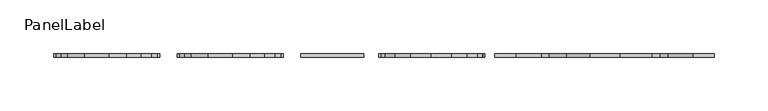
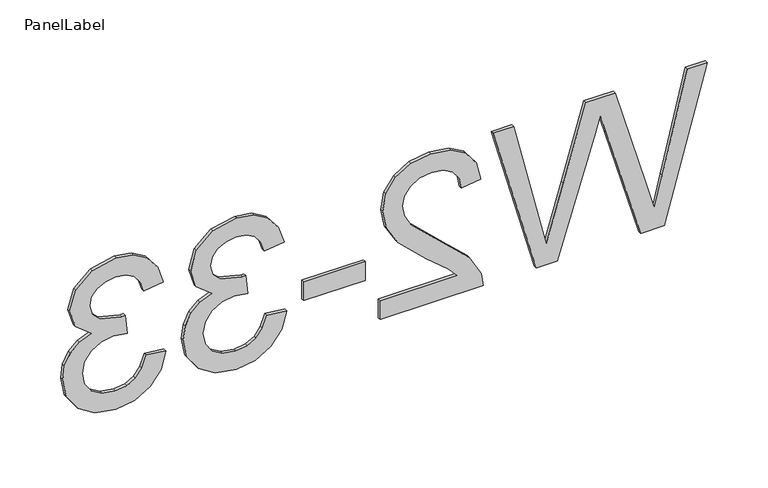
"""IFC4 building model written with IfcOpenShell, lengths in millimetres: fastener geometry, PanelLabel : Miranda."""

from ifc_helpers import new_model, si_unit, frame, origin, place, context, project, spatial, polyline, outline, extrude, source, transform, mapped, element, save


def panellabel_b0f0797e(model_context):
    return source(origin(), model_context, "Body", "SweptSolid", [
        extrude(outline(polyline([(1310.9113766, 268.5683654), (1460.9667612, 309.4892308), (1460.9667612, 290.1461538), (1362.3463766, 266.4069231), (1331.9030112, 259.08), (1358.8294535, 251.2401923), (1460.9667612, 221.4928846), (1460.9667612, 193.6139423), (1386.9282035, 171.9995192), (1331.9030112, 155.9169231), (1361.4671458, 148.8098077), (1460.9667612, 124.8507692), (1460.9667612, 105.5076923), (1310.9113766, 146.4651923), (1310.9113766, 166.5043269), (1426.6767612, 202.4795192), (1442.8326266, 207.4984615), (1423.3796458, 213.1401923), (1310.9113766, 245.9281731), (1310.9113766, 268.5683654)])), frame((0.0, 100.80625, 0.0), z_axis=(0.0, 1.0, 0.0), x_axis=(0.0, 0.0, 1.0)), (0.0, 0.0, 1.0), 3.175),
        extrude(outline(polyline([(1329.6682997, -2.3446154), (1310.9113766, -2.3446154), (1310.9113766, 96.1292308), (1323.8433958, 94.1143269), (1343.7543093, 82.7209615), (1365.4969535, 59.2381731), (1396.7462804, 26.8531731), (1407.5168573, 20.7809856), (1417.9943573, 18.7569231), (1427.3865569, 20.6665024), (1435.1943093, 26.3952404), (1440.4559559, 35.2012861), (1442.2098381, 46.3427885), (1440.4971698, 58.0429688), (1435.359165, 67.1329327), (1427.1988045, 72.9990505), (1416.4190689, 75.0276923), (1418.7636843, 93.7846154), (1436.9069775, 89.2373438), (1450.1595497, 79.4055288), (1458.2649583, 64.8020553), (1460.9667612, 45.9398077), (1457.9627227, 26.9401803), (1448.9506073, 12.3641827), (1435.4873862, 3.0910457), (1419.1300304, 0.0), (1401.3439247, 3.33375), (1382.9533477, 14.4157212), (1357.254165, 41.2872115), (1339.211617, 62.865), (1329.6682997, 71.3275962), (1329.6682997, -2.3446154)])), frame((0.0, 100.80625, 0.0), z_axis=(0.0, 1.0, 0.0), x_axis=(0.0, 0.0, 1.0)), (0.0, 0.0, 1.0), 3.175),
        extrude(outline(polyline([(-75.0276923, 103.98125), (-16.4123077, 103.98125), (-16.4123077, 100.80625), (-75.0276923, 100.80625), (-75.0276923, 103.98125)])), frame((0.0, 0.0, 1355.4590689), z_axis=(0.0, 0.0, 1.0), x_axis=(1.0, 0.0, 0.0)), (0.0, 0.0, 1.0), 18.7569231),
        extrude(outline(polyline([(1350.7698381, -91.44), (1353.1144535, -110.1969231), (1341.327266, -114.3961659), (1333.3683958, -120.5462019), (1328.8348622, -128.9492668), (1327.3236843, -139.9075962), (1329.4026987, -152.7663462), (1335.639742, -162.6943269), (1344.9449343, -169.041274), (1356.2283958, -171.1569231), (1366.9394415, -169.0595913), (1375.6264247, -162.7675962), (1381.3826386, -153.2425962), (1383.3013766, -141.44625), (1381.2498381, -128.2944231), (1400.0067612, -130.3825962), (1399.7869535, -133.3866346), (1405.172242, -154.6713462), (1412.0045977, -161.7601442), (1421.7310881, -164.1230769), (1429.8319174, -162.4104087), (1436.4032516, -157.2724038), (1440.7581915, -149.4325962), (1442.2098381, -139.6145192), (1440.7444535, -129.778125), (1436.3482997, -121.7368269), (1429.0213766, -115.8661298), (1418.7636843, -112.5415385), (1421.1082997, -93.7846154), (1437.9510641, -99.3072837), (1450.5258958, -109.1345192), (1458.3565448, -122.5794231), (1460.9667612, -138.9550962), (1455.8195977, -161.5769712), (1441.7519054, -177.403125), (1422.8301266, -182.88), (1405.5385881, -177.6778846), (1393.1194535, -162.2913462), (1388.3752708, -174.0327404), (1380.2973381, -182.7334615), (1369.3252708, -188.11875), (1355.8986843, -189.9138462), (1337.6180112, -186.3236538), (1322.3413766, -175.5530769), (1312.010415, -159.2964663), (1308.5667612, -139.2481731), (1311.5066891, -121.1140385), (1320.3264727, -106.3502885), (1333.8171698, -96.0834375), (1350.7698381, -91.44)])), frame((0.0, 100.80625, 0.0), z_axis=(0.0, 1.0, 0.0), x_axis=(0.0, 0.0, 1.0)), (0.0, 0.0, 1.0), 3.175),
        extrude(outline(polyline([(1350.7698381, -206.3261538), (1353.1144535, -225.0830769), (1341.327266, -229.2823197), (1333.3683958, -235.4323558), (1328.8348622, -243.8354207), (1327.3236843, -254.79375), (1329.4026987, -267.6525), (1335.639742, -277.5804808), (1344.9449343, -283.9274279), (1356.2283958, -286.0430769), (1366.9394415, -283.9457452), (1375.6264247, -277.65375), (1381.3826386, -268.12875), (1383.3013766, -256.3324038), (1381.2498381, -243.1805769), (1400.0067612, -245.26875), (1399.7869535, -248.2727885), (1405.172242, -269.5575), (1412.0045977, -276.6462981), (1421.7310881, -279.0092308), (1429.8319174, -277.2965625), (1436.4032516, -272.1585577), (1440.7581915, -264.31875), (1442.2098381, -254.5006731), (1440.7444535, -244.6642788), (1436.3482997, -236.6229808), (1429.0213766, -230.7522837), (1418.7636843, -227.4276923), (1421.1082997, -208.6707692), (1437.9510641, -214.1934375), (1450.5258958, -224.0206731), (1458.3565448, -237.4655769), (1460.9667612, -253.84125), (1455.8195977, -276.463125), (1441.7519054, -292.2892788), (1422.8301266, -297.7661538), (1405.5385881, -292.5640385), (1393.1194535, -277.1775), (1388.3752708, -288.9188942), (1380.2973381, -297.6196154), (1369.3252708, -303.0049038), (1355.8986843, -304.8), (1337.6180112, -301.2098077), (1322.3413766, -290.4392308), (1312.010415, -274.1826202), (1308.5667612, -254.1343269), (1311.5066891, -236.0001923), (1320.3264727, -221.2364423), (1333.8171698, -210.9695913), (1350.7698381, -206.3261538)])), frame((0.0, 100.80625, 0.0), z_axis=(0.0, 1.0, 0.0), x_axis=(0.0, 0.0, 1.0)), (0.0, 0.0, 1.0), 3.175),
    ])


if __name__ == "__main__":
    model = new_model("IFC4")
    model_context = context("Model", 3, world=origin())
    ifc_project = project(units=[si_unit("LENGTHUNIT", "METRE", prefix="MILLI")], contexts=[model_context])
    site = spatial("IfcSite", under=ifc_project)
    building = spatial("IfcBuilding", under=site)
    placement = place(None, origin())
    panellabel_shape = panellabel_b0f0797e(model_context)
    element("IfcFastener", 1, ObjectType="PanelLabel : Miranda", at=placement, inside=building, context=model_context, shape_type="MappedRepresentation", body=[
        mapped(panellabel_shape, transform((0.0, 0.0, 0.0), x_axis=(1.0, 0.0, 0.0), y_axis=(0.0, 1.0, 0.0), z_axis=(0.0, 0.0, 1.0))),
    ])
    save(model, "model.ifc")
